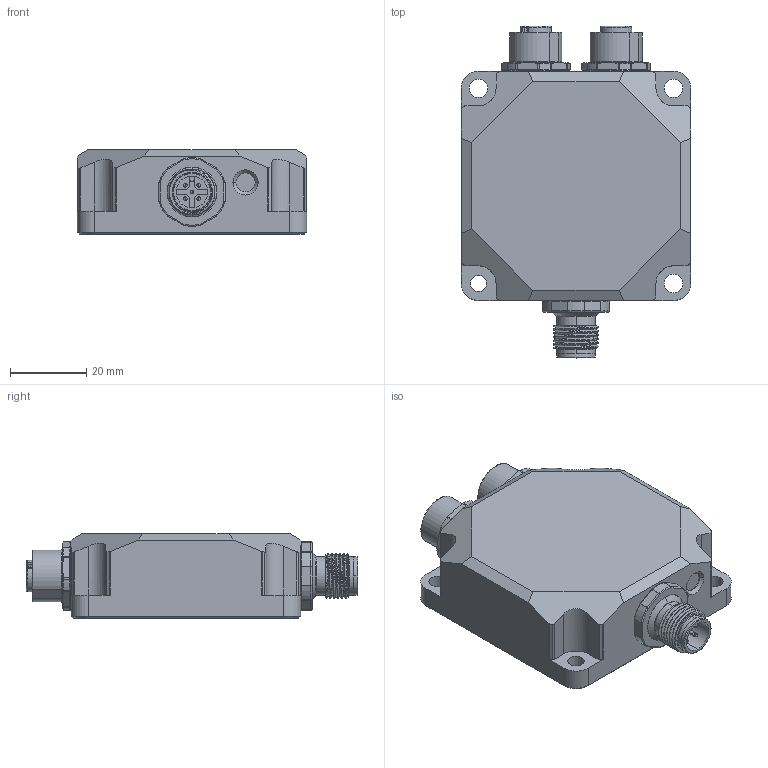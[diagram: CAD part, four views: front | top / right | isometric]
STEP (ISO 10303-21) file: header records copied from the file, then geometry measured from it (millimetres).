
FILE_DESCRIPTION((''),'2;1');
FILE_NAME('ASSY_A2C_SG_TYPE3_ASM','2020-11-18T',('Administrator'),(''),'PRO/ENGINEER BY PARAMETRIC TECHNOLOGY CORPORATION, 2010480','PRO/ENGINEER BY PARAMETRIC TECHNOLOGY CORPORATION, 2010480','');
FILE_SCHEMA(('CONFIG_CONTROL_DESIGN'));
Length unit declared in the file: millimetre
Products named in the file (7): ENCL_A2C_SG2_M12_V6; M-625-RMI; LIGHTGUIDE; A2C_SG2_LID; CERL1668A2926DL9; M12_F_A_5_86_0232_0002_00005_ASM; ASSY_A2C_SG_TYPE3_ASM
Assembly tree (7 placements, depth 3):
  ASSY_A2C_SG_TYPE3_ASM
    ENCL_A2C_SG2_M12_V6
    M-625-RMI
    LIGHTGUIDE
    A2C_SG2_LID
    M12_F_A_5_86_0232_0002_00005_ASM  x2
      CERL1668A2926DL9
Bounding box: 60 x 86.8 x 22 mm (x, y, z)
Volume: 32645.8 mm3; surface area: 28972 mm2
Topology: 7 solids, 9 shells, 1132 faces, 2934 edges, 1844 vertices
Faces by surface type: cylinder 422, plane 338, torus 121, extrusion 106, cone 98, sphere 38, bspline 9
Entity records: 28275 total; most frequent: CARTESIAN_POINT 7962, DIRECTION 4275, ORIENTED_EDGE 4198, EDGE_CURVE 2099, AXIS2_PLACEMENT_3D 1607, VERTEX_POINT 1339, VECTOR 1061, LINE 1008
